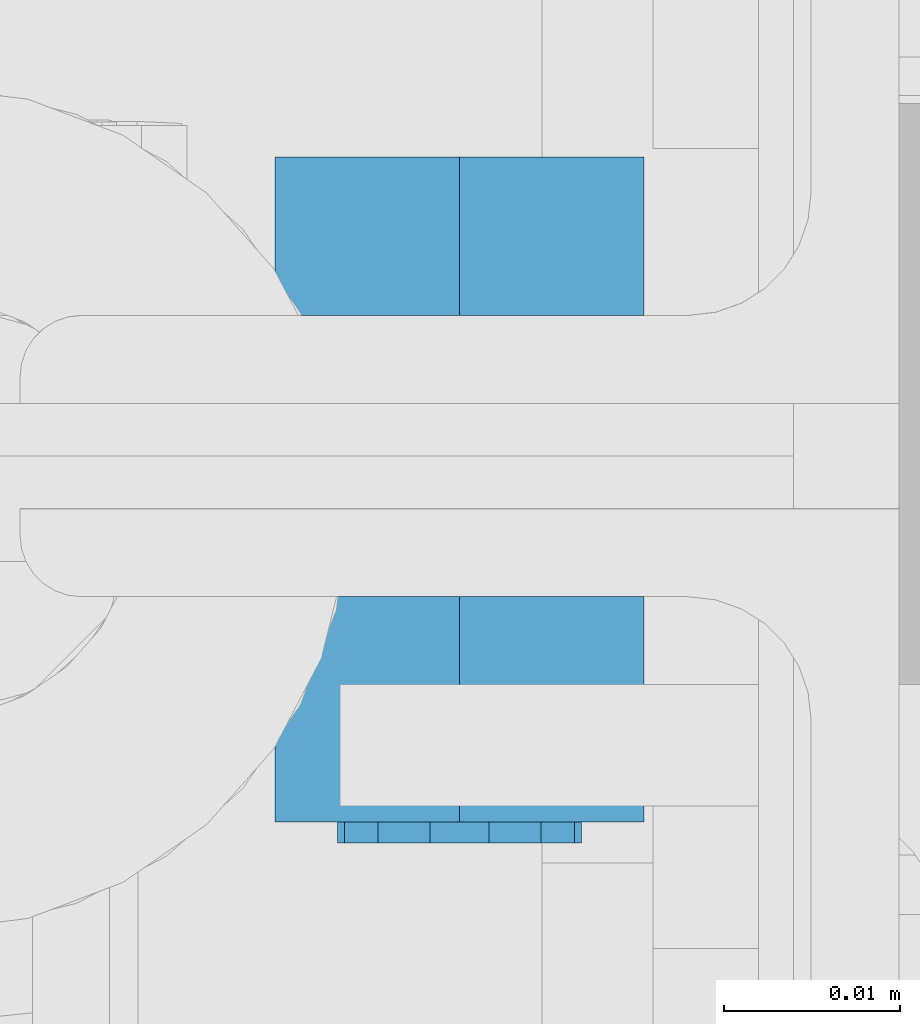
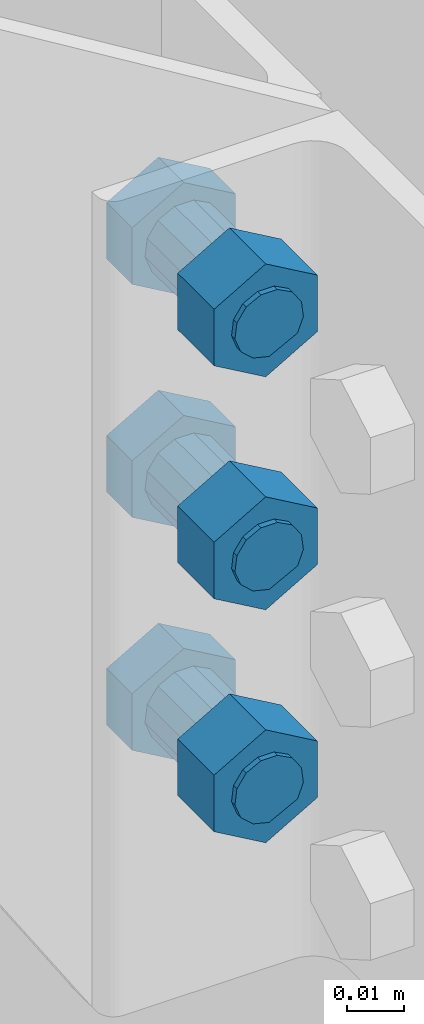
# One storey, part 11 of 18: 1 mechanical fastener.
"""IFC2X3 building model written with IfcOpenShell, lengths in millimetres."""

from ifc_helpers import new_model, si_unit, frame, origin_with_axes, place, context, subcontext, project, spatial, faceted_brep, source, transform, mapped, type_object, element, save


model = new_model("IFC2X3")

# Units and contexts
model_context = context("Model", 3, precision=1e-05, world=origin_with_axes())
body_context = subcontext(model_context, "Body", "Model", "MODEL_VIEW")
ifc_project = project(units=[si_unit("LENGTHUNIT", "METRE", prefix="MILLI"), si_unit("AREAUNIT", "SQUARE_METRE"), si_unit("VOLUMEUNIT", "CUBIC_METRE"), si_unit("MASSUNIT", "GRAM", prefix="KILO"), si_unit("TIMEUNIT", "SECOND"), si_unit("PLANEANGLEUNIT", "RADIAN"), si_unit("SOLIDANGLEUNIT", "STERADIAN"), si_unit("THERMODYNAMICTEMPERATUREUNIT", "DEGREE_CELSIUS"), si_unit("LUMINOUSINTENSITYUNIT", "LUMEN")], contexts=[model_context])

# Site, building, storey
site_placement = place(None, origin_with_axes())
site = spatial("IfcSite", under=ifc_project, at=site_placement, Name="Undefined", CompositionType="ELEMENT")
building_placement = place(site_placement, origin_with_axes())
building = spatial("IfcBuilding", under=site, at=building_placement, Name="Undefined", CompositionType="ELEMENT")
storey_placement = place(building_placement, origin_with_axes())
storey = spatial("IfcBuildingStorey", under=building, at=storey_placement, Name="Undefined", CompositionType="ELEMENT", Elevation=0.0)

# Mechanical fastener
mechanical_fastener_type = type_object("IfcMechanicalFastenerType", Name="Bolt assembly")
shared_shape_1 = source(origin_with_axes(), body_context, "Body", "Brep", [
    faceted_brep([(12.12435565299, 10.9974534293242, 0.0), (6.062177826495, 10.9974534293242, 10.5000000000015), (-6.062177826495, 10.9974534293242, 10.5000000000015), (-12.12435565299, 10.9974534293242, 0.0), (-6.062177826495, 10.9974534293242, -10.5000000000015), (6.062177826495, 10.9974534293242, -10.5000000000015), (6.062177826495, 19.9974534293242, -10.5000000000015), (-6.062177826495, 19.9974534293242, -10.5000000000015), (-12.12435565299, 19.9974534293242, 0.0), (-6.062177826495, 19.9974534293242, 10.5000000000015), (6.062177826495, 19.9974534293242, 10.5000000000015), (12.12435565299, 19.9974534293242, 0.0), (7.0, 19.9974534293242, 0.0), (6.19819217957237, 19.9974534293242, 3.25306220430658), (3.97645322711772, 19.9974534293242, 5.76088706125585), (0.843756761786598, 19.9974534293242, 6.94896211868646), (-2.48223420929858, 19.9974534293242, 6.54511369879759), (-5.23957523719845, 19.9974534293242, 4.64185860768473), (-6.79659272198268, 19.9974534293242, 1.67520965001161), (-6.79659272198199, 19.9974534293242, -1.67520965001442), (-5.23957523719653, 19.9974534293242, -4.6418586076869), (-2.48223420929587, 19.9974534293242, -6.54511369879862), (0.843756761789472, 19.9974534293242, -6.94896211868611), (3.97645322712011, 19.9974534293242, -5.7608870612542), (3.97645322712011, 49.9974534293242, -5.7608870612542), (0.843756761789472, 49.9974534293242, -6.94896211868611), (-2.48223420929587, 49.9974534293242, -6.54511369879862), (-5.23957523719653, 49.9974534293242, -4.6418586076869), (-6.79659272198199, 49.9974534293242, -1.67520965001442), (-6.79659272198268, 49.9974534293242, 1.67520965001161), (-5.23957523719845, 49.9974534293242, 4.64185860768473), (-2.48223420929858, 49.9974534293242, 6.54511369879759), (0.843756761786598, 49.9974534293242, 6.94896211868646), (3.97645322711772, 49.9974534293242, 5.76088706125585), (6.19819217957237, 49.9974534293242, 3.25306220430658), (7.0, 49.9974534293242, 0.0), (12.12435565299, 35.9974550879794, 0.0), (6.062177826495, 35.9974550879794, 10.5000000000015), (-6.062177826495, 35.9974550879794, 10.5000000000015), (-12.12435565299, 35.9974550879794, 0.0), (-6.062177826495, 35.9974550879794, -10.5000000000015), (6.062177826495, 35.9974550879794, -10.5000000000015), (6.062177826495, 48.7974552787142, -10.5000000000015), (-6.062177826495, 48.7974552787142, -10.5000000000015), (-12.12435565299, 48.7974552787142, 0.0), (-6.062177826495, 48.7974552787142, 10.5000000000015), (6.062177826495, 48.7974552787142, 10.5000000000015), (12.12435565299, 48.7974552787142, 0.0)], [[[0, 1, 2, 3, 4, 5]], [[6, 7, 8, 9, 10, 11]], [[0, 11, 10, 1]], [[1, 10, 9, 2]], [[2, 9, 8, 3]], [[3, 8, 7, 4]], [[4, 7, 6, 5]], [[5, 6, 11, 0]], [[12, 13, 14, 15, 16, 17, 18, 19, 20, 21, 22, 23]], [[24, 25, 26, 27, 28, 29, 30, 31, 32, 33, 34, 35]], [[12, 35, 34, 13]], [[13, 34, 33, 14]], [[14, 33, 32, 15]], [[15, 32, 31, 16]], [[16, 31, 30, 17]], [[17, 30, 29, 18]], [[18, 29, 28, 19]], [[19, 28, 27, 20]], [[20, 27, 26, 21]], [[21, 26, 25, 22]], [[22, 25, 24, 23]], [[23, 24, 35, 12]], [[36, 37, 38, 39, 40, 41]], [[42, 43, 44, 45, 46, 47]], [[36, 47, 46, 37]], [[37, 46, 45, 38]], [[38, 45, 44, 39]], [[39, 44, 43, 40]], [[40, 43, 42, 41]], [[41, 42, 47, 36]]]),
    faceted_brep([(8.0, 24.9974854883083, 0.0), (7.08364820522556, 24.9974854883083, 3.71778537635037), (4.54451797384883, 24.9974854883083, 6.58387092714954), (0.964293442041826, 24.9974854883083, 7.94167099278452), (-2.83683909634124, 24.9974854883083, 7.48012994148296), (-5.98808598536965, 24.9974854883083, 5.30498126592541), (-7.76753453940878, 24.9974854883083, 1.91452531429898), (-7.76753453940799, 24.9974854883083, -1.91452531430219), (-5.98808598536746, 24.9974854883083, -5.30498126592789), (-2.83683909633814, 24.9974854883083, -7.48012994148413), (0.964293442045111, 24.9974854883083, -7.94167099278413), (4.54451797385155, 24.9974854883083, -6.58387092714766), (4.54451797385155, 30.9974854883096, -6.58387092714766), (0.964293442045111, 30.9974854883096, -7.94167099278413), (-2.83683909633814, 30.9974854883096, -7.48012994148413), (-5.98808598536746, 30.9974854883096, -5.30498126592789), (-7.76753453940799, 30.9974854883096, -1.91452531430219), (-7.76753453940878, 30.9974854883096, 1.91452531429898), (-5.98808598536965, 30.9974854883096, 5.30498126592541), (-2.83683909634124, 30.9974854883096, 7.48012994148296), (0.964293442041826, 30.9974854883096, 7.94167099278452), (4.54451797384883, 30.9974854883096, 6.58387092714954), (7.08364820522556, 30.9974854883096, 3.71778537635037), (8.0, 30.9974854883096, 0.0), (8.0, 30.8974550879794, 0.0), (7.08364820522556, 30.8974550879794, 3.71778537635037), (4.54451797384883, 30.8974550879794, 6.58387092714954), (0.964293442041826, 30.8974550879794, 7.94167099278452), (-2.83683909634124, 30.8974550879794, 7.48012994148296), (-5.98808598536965, 30.8974550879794, 5.30498126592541), (-7.76753453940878, 30.8974550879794, 1.91452531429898), (-7.76753453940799, 30.8974550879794, -1.91452531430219), (-5.98808598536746, 30.8974550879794, -5.30498126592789), (-2.83683909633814, 30.8974550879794, -7.48012994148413), (0.964293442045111, 30.8974550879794, -7.94167099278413), (4.54451797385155, 30.8974550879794, -6.58387092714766), (4.54451797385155, 35.9974550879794, -6.58387092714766), (0.964293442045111, 35.9974550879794, -7.94167099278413), (-2.83683909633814, 35.9974550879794, -7.48012994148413), (-5.98808598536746, 35.9974550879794, -5.30498126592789), (-7.76753453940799, 35.9974550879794, -1.91452531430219), (-7.76753453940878, 35.9974550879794, 1.91452531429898), (-5.98808598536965, 35.9974550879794, 5.30498126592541), (-2.83683909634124, 35.9974550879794, 7.48012994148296), (0.964293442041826, 35.9974550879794, 7.94167099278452), (4.54451797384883, 35.9974550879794, 6.58387092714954), (7.08364820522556, 35.9974550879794, 3.71778537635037), (8.0, 35.9974550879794, 0.0), (8.0, 20.0974534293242, 0.0), (7.08364820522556, 20.0974534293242, 3.71778537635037), (4.54451797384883, 20.0974534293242, 6.58387092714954), (0.964293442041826, 20.0974534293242, 7.94167099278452), (-2.83683909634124, 20.0974534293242, 7.48012994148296), (-5.98808598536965, 20.0974534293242, 5.30498126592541), (-7.76753453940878, 20.0974534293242, 1.91452531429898), (-7.76753453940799, 20.0974534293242, -1.91452531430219), (-5.98808598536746, 20.0974534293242, -5.30498126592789), (-2.83683909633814, 20.0974534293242, -7.48012994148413), (0.964293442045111, 20.0974534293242, -7.94167099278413), (4.54451797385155, 20.0974534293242, -6.58387092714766), (4.54451797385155, 25.0974534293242, -6.58387092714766), (0.964293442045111, 25.0974534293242, -7.94167099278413), (-2.83683909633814, 25.0974534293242, -7.48012994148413), (-5.98808598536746, 25.0974534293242, -5.30498126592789), (-7.76753453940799, 25.0974534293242, -1.91452531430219), (-7.76753453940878, 25.0974534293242, 1.91452531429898), (-5.98808598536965, 25.0974534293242, 5.30498126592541), (-2.83683909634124, 25.0974534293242, 7.48012994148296), (0.964293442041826, 25.0974534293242, 7.94167099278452), (4.54451797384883, 25.0974534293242, 6.58387092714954), (7.08364820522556, 25.0974534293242, 3.71778537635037), (8.0, 25.0974534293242, 0.0)], [[[0, 1, 2, 3, 4, 5, 6, 7, 8, 9, 10, 11]], [[12, 13, 14, 15, 16, 17, 18, 19, 20, 21, 22, 23]], [[0, 23, 22, 1]], [[1, 22, 21, 2]], [[2, 21, 20, 3]], [[3, 20, 19, 4]], [[4, 19, 18, 5]], [[5, 18, 17, 6]], [[6, 17, 16, 7]], [[7, 16, 15, 8]], [[8, 15, 14, 9]], [[9, 14, 13, 10]], [[10, 13, 12, 11]], [[11, 12, 23, 0]], [[24, 25, 26, 27, 28, 29, 30, 31, 32, 33, 34, 35]], [[36, 37, 38, 39, 40, 41, 42, 43, 44, 45, 46, 47]], [[24, 47, 46, 25]], [[25, 46, 45, 26]], [[26, 45, 44, 27]], [[27, 44, 43, 28]], [[28, 43, 42, 29]], [[29, 42, 41, 30]], [[30, 41, 40, 31]], [[31, 40, 39, 32]], [[32, 39, 38, 33]], [[33, 38, 37, 34]], [[34, 37, 36, 35]], [[35, 36, 47, 24]], [[48, 49, 50, 51, 52, 53, 54, 55, 56, 57, 58, 59]], [[60, 61, 62, 63, 64, 65, 66, 67, 68, 69, 70, 71]], [[48, 71, 70, 49]], [[49, 70, 69, 50]], [[50, 69, 68, 51]], [[51, 68, 67, 52]], [[52, 67, 66, 53]], [[53, 66, 65, 54]], [[54, 65, 64, 55]], [[55, 64, 63, 56]], [[56, 63, 62, 57]], [[57, 62, 61, 58]], [[58, 61, 60, 59]], [[59, 60, 71, 48]]]),
])
shared_shape_2 = source(origin_with_axes(), body_context, "Body", "Brep", [
    faceted_brep([(12.12435565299, 10.9974534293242, 0.0), (6.062177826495, 10.9974534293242, 10.5000000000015), (-6.062177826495, 10.9974534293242, 10.5000000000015), (-12.12435565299, 10.9974534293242, 0.0), (-6.062177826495, 10.9974534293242, -10.5000000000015), (6.062177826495, 10.9974534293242, -10.5000000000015), (6.062177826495, 19.9974534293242, -10.5000000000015), (-6.062177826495, 19.9974534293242, -10.5000000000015), (-12.12435565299, 19.9974534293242, 0.0), (-6.062177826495, 19.9974534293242, 10.5000000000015), (6.062177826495, 19.9974534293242, 10.5000000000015), (12.12435565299, 19.9974534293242, 0.0), (7.0, 19.9974534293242, 0.0), (6.19819217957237, 19.9974534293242, 3.25306220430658), (3.97645322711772, 19.9974534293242, 5.76088706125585), (0.843756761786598, 19.9974534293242, 6.94896211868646), (-2.48223420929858, 19.9974534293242, 6.54511369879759), (-5.23957523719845, 19.9974534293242, 4.64185860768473), (-6.79659272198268, 19.9974534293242, 1.67520965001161), (-6.79659272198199, 19.9974534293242, -1.67520965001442), (-5.23957523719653, 19.9974534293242, -4.6418586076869), (-2.48223420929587, 19.9974534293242, -6.54511369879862), (0.843756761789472, 19.9974534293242, -6.94896211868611), (3.97645322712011, 19.9974534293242, -5.7608870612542), (3.97645322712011, 49.9974534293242, -5.7608870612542), (0.843756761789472, 49.9974534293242, -6.94896211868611), (-2.48223420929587, 49.9974534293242, -6.54511369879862), (-5.23957523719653, 49.9974534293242, -4.6418586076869), (-6.79659272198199, 49.9974534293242, -1.67520965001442), (-6.79659272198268, 49.9974534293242, 1.67520965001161), (-5.23957523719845, 49.9974534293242, 4.64185860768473), (-2.48223420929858, 49.9974534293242, 6.54511369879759), (0.843756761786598, 49.9974534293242, 6.94896211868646), (3.97645322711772, 49.9974534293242, 5.76088706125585), (6.19819217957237, 49.9974534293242, 3.25306220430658), (7.0, 49.9974534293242, 0.0), (12.12435565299, 35.9974550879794, 0.0), (6.062177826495, 35.9974550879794, 10.5000000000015), (-6.062177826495, 35.9974550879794, 10.5000000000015), (-12.12435565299, 35.9974550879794, 0.0), (-6.062177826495, 35.9974550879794, -10.5000000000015), (6.062177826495, 35.9974550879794, -10.5000000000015), (6.062177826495, 48.7974552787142, -10.5000000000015), (-6.062177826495, 48.7974552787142, -10.5000000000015), (-12.12435565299, 48.7974552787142, 0.0), (-6.062177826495, 48.7974552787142, 10.5000000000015), (6.062177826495, 48.7974552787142, 10.5000000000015), (12.12435565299, 48.7974552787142, 0.0)], [[[0, 1, 2, 3, 4, 5]], [[6, 7, 8, 9, 10, 11]], [[0, 11, 10, 1]], [[1, 10, 9, 2]], [[2, 9, 8, 3]], [[3, 8, 7, 4]], [[4, 7, 6, 5]], [[5, 6, 11, 0]], [[12, 13, 14, 15, 16, 17, 18, 19, 20, 21, 22, 23]], [[24, 25, 26, 27, 28, 29, 30, 31, 32, 33, 34, 35]], [[12, 35, 34, 13]], [[13, 34, 33, 14]], [[14, 33, 32, 15]], [[15, 32, 31, 16]], [[16, 31, 30, 17]], [[17, 30, 29, 18]], [[18, 29, 28, 19]], [[19, 28, 27, 20]], [[20, 27, 26, 21]], [[21, 26, 25, 22]], [[22, 25, 24, 23]], [[23, 24, 35, 12]], [[36, 37, 38, 39, 40, 41]], [[42, 43, 44, 45, 46, 47]], [[36, 47, 46, 37]], [[37, 46, 45, 38]], [[38, 45, 44, 39]], [[39, 44, 43, 40]], [[40, 43, 42, 41]], [[41, 42, 47, 36]]]),
    faceted_brep([(8.0, 24.9974854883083, 0.0), (7.08364820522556, 24.9974854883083, 3.71778537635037), (4.54451797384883, 24.9974854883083, 6.58387092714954), (0.964293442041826, 24.9974854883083, 7.94167099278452), (-2.83683909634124, 24.9974854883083, 7.48012994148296), (-5.98808598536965, 24.9974854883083, 5.30498126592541), (-7.76753453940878, 24.9974854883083, 1.91452531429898), (-7.76753453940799, 24.9974854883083, -1.91452531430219), (-5.98808598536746, 24.9974854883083, -5.30498126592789), (-2.83683909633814, 24.9974854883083, -7.48012994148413), (0.964293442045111, 24.9974854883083, -7.94167099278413), (4.54451797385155, 24.9974854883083, -6.58387092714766), (4.54451797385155, 30.9974854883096, -6.58387092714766), (0.964293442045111, 30.9974854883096, -7.94167099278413), (-2.83683909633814, 30.9974854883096, -7.48012994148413), (-5.98808598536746, 30.9974854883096, -5.30498126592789), (-7.76753453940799, 30.9974854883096, -1.91452531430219), (-7.76753453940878, 30.9974854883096, 1.91452531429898), (-5.98808598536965, 30.9974854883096, 5.30498126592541), (-2.83683909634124, 30.9974854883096, 7.48012994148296), (0.964293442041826, 30.9974854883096, 7.94167099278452), (4.54451797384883, 30.9974854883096, 6.58387092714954), (7.08364820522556, 30.9974854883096, 3.71778537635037), (8.0, 30.9974854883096, 0.0), (8.0, 30.8974550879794, 0.0), (7.08364820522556, 30.8974550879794, 3.71778537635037), (4.54451797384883, 30.8974550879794, 6.58387092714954), (0.964293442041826, 30.8974550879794, 7.94167099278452), (-2.83683909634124, 30.8974550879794, 7.48012994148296), (-5.98808598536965, 30.8974550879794, 5.30498126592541), (-7.76753453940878, 30.8974550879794, 1.91452531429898), (-7.76753453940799, 30.8974550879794, -1.91452531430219), (-5.98808598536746, 30.8974550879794, -5.30498126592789), (-2.83683909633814, 30.8974550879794, -7.48012994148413), (0.964293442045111, 30.8974550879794, -7.94167099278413), (4.54451797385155, 30.8974550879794, -6.58387092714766), (4.54451797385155, 35.9974550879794, -6.58387092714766), (0.964293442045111, 35.9974550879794, -7.94167099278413), (-2.83683909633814, 35.9974550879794, -7.48012994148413), (-5.98808598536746, 35.9974550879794, -5.30498126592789), (-7.76753453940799, 35.9974550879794, -1.91452531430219), (-7.76753453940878, 35.9974550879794, 1.91452531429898), (-5.98808598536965, 35.9974550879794, 5.30498126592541), (-2.83683909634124, 35.9974550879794, 7.48012994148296), (0.964293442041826, 35.9974550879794, 7.94167099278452), (4.54451797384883, 35.9974550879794, 6.58387092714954), (7.08364820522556, 35.9974550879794, 3.71778537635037), (8.0, 35.9974550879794, 0.0), (8.0, 20.0974534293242, 0.0), (7.08364820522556, 20.0974534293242, 3.71778537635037), (4.54451797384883, 20.0974534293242, 6.58387092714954), (0.964293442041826, 20.0974534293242, 7.94167099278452), (-2.83683909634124, 20.0974534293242, 7.48012994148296), (-5.98808598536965, 20.0974534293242, 5.30498126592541), (-7.76753453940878, 20.0974534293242, 1.91452531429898), (-7.76753453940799, 20.0974534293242, -1.91452531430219), (-5.98808598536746, 20.0974534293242, -5.30498126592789), (-2.83683909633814, 20.0974534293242, -7.48012994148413), (0.964293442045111, 20.0974534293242, -7.94167099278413), (4.54451797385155, 20.0974534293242, -6.58387092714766), (4.54451797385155, 25.0974534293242, -6.58387092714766), (0.964293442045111, 25.0974534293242, -7.94167099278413), (-2.83683909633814, 25.0974534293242, -7.48012994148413), (-5.98808598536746, 25.0974534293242, -5.30498126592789), (-7.76753453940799, 25.0974534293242, -1.91452531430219), (-7.76753453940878, 25.0974534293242, 1.91452531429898), (-5.98808598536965, 25.0974534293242, 5.30498126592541), (-2.83683909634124, 25.0974534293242, 7.48012994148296), (0.964293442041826, 25.0974534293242, 7.94167099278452), (4.54451797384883, 25.0974534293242, 6.58387092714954), (7.08364820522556, 25.0974534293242, 3.71778537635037), (8.0, 25.0974534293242, 0.0)], [[[0, 1, 2, 3, 4, 5, 6, 7, 8, 9, 10, 11]], [[12, 13, 14, 15, 16, 17, 18, 19, 20, 21, 22, 23]], [[0, 23, 22, 1]], [[1, 22, 21, 2]], [[2, 21, 20, 3]], [[3, 20, 19, 4]], [[4, 19, 18, 5]], [[5, 18, 17, 6]], [[6, 17, 16, 7]], [[7, 16, 15, 8]], [[8, 15, 14, 9]], [[9, 14, 13, 10]], [[10, 13, 12, 11]], [[11, 12, 23, 0]], [[24, 25, 26, 27, 28, 29, 30, 31, 32, 33, 34, 35]], [[36, 37, 38, 39, 40, 41, 42, 43, 44, 45, 46, 47]], [[24, 47, 46, 25]], [[25, 46, 45, 26]], [[26, 45, 44, 27]], [[27, 44, 43, 28]], [[28, 43, 42, 29]], [[29, 42, 41, 30]], [[30, 41, 40, 31]], [[31, 40, 39, 32]], [[32, 39, 38, 33]], [[33, 38, 37, 34]], [[34, 37, 36, 35]], [[35, 36, 47, 24]], [[48, 49, 50, 51, 52, 53, 54, 55, 56, 57, 58, 59]], [[60, 61, 62, 63, 64, 65, 66, 67, 68, 69, 70, 71]], [[48, 71, 70, 49]], [[49, 70, 69, 50]], [[50, 69, 68, 51]], [[51, 68, 67, 52]], [[52, 67, 66, 53]], [[53, 66, 65, 54]], [[54, 65, 64, 55]], [[55, 64, 63, 56]], [[56, 63, 62, 57]], [[57, 62, 61, 58]], [[58, 61, 60, 59]], [[59, 60, 71, 48]]]),
])
shared_shape_3 = source(origin_with_axes(), body_context, "Body", "Brep", [
    faceted_brep([(12.12435565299, 10.9974534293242, 0.0), (6.062177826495, 10.9974534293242, 10.5000000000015), (-6.062177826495, 10.9974534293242, 10.5000000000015), (-12.12435565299, 10.9974534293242, 0.0), (-6.062177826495, 10.9974534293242, -10.5000000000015), (6.062177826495, 10.9974534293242, -10.5000000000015), (6.062177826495, 19.9974534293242, -10.5000000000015), (-6.062177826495, 19.9974534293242, -10.5000000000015), (-12.12435565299, 19.9974534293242, 0.0), (-6.062177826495, 19.9974534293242, 10.5000000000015), (6.062177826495, 19.9974534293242, 10.5000000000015), (12.12435565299, 19.9974534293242, 0.0), (7.0, 19.9974534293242, 0.0), (6.19819217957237, 19.9974534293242, 3.25306220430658), (3.97645322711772, 19.9974534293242, 5.76088706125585), (0.843756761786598, 19.9974534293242, 6.94896211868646), (-2.48223420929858, 19.9974534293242, 6.54511369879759), (-5.23957523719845, 19.9974534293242, 4.64185860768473), (-6.79659272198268, 19.9974534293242, 1.67520965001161), (-6.79659272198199, 19.9974534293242, -1.67520965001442), (-5.23957523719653, 19.9974534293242, -4.6418586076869), (-2.48223420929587, 19.9974534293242, -6.54511369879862), (0.843756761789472, 19.9974534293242, -6.94896211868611), (3.97645322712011, 19.9974534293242, -5.7608870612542), (3.97645322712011, 49.9974534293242, -5.7608870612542), (0.843756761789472, 49.9974534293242, -6.94896211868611), (-2.48223420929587, 49.9974534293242, -6.54511369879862), (-5.23957523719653, 49.9974534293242, -4.6418586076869), (-6.79659272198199, 49.9974534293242, -1.67520965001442), (-6.79659272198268, 49.9974534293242, 1.67520965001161), (-5.23957523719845, 49.9974534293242, 4.64185860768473), (-2.48223420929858, 49.9974534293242, 6.54511369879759), (0.843756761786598, 49.9974534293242, 6.94896211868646), (3.97645322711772, 49.9974534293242, 5.76088706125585), (6.19819217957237, 49.9974534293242, 3.25306220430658), (7.0, 49.9974534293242, 0.0), (12.12435565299, 35.9974550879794, 0.0), (6.062177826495, 35.9974550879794, 10.5000000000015), (-6.062177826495, 35.9974550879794, 10.5000000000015), (-12.12435565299, 35.9974550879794, 0.0), (-6.062177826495, 35.9974550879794, -10.5000000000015), (6.062177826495, 35.9974550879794, -10.5000000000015), (6.062177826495, 48.7974552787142, -10.5000000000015), (-6.062177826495, 48.7974552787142, -10.5000000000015), (-12.12435565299, 48.7974552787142, 0.0), (-6.062177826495, 48.7974552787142, 10.5000000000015), (6.062177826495, 48.7974552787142, 10.5000000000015), (12.12435565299, 48.7974552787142, 0.0)], [[[0, 1, 2, 3, 4, 5]], [[6, 7, 8, 9, 10, 11]], [[0, 11, 10, 1]], [[1, 10, 9, 2]], [[2, 9, 8, 3]], [[3, 8, 7, 4]], [[4, 7, 6, 5]], [[5, 6, 11, 0]], [[12, 13, 14, 15, 16, 17, 18, 19, 20, 21, 22, 23]], [[24, 25, 26, 27, 28, 29, 30, 31, 32, 33, 34, 35]], [[12, 35, 34, 13]], [[13, 34, 33, 14]], [[14, 33, 32, 15]], [[15, 32, 31, 16]], [[16, 31, 30, 17]], [[17, 30, 29, 18]], [[18, 29, 28, 19]], [[19, 28, 27, 20]], [[20, 27, 26, 21]], [[21, 26, 25, 22]], [[22, 25, 24, 23]], [[23, 24, 35, 12]], [[36, 37, 38, 39, 40, 41]], [[42, 43, 44, 45, 46, 47]], [[36, 47, 46, 37]], [[37, 46, 45, 38]], [[38, 45, 44, 39]], [[39, 44, 43, 40]], [[40, 43, 42, 41]], [[41, 42, 47, 36]]]),
    faceted_brep([(8.0, 24.9974854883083, 0.0), (7.08364820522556, 24.9974854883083, 3.71778537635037), (4.54451797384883, 24.9974854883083, 6.58387092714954), (0.964293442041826, 24.9974854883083, 7.94167099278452), (-2.83683909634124, 24.9974854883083, 7.48012994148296), (-5.98808598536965, 24.9974854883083, 5.30498126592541), (-7.76753453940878, 24.9974854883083, 1.91452531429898), (-7.76753453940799, 24.9974854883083, -1.91452531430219), (-5.98808598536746, 24.9974854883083, -5.30498126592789), (-2.83683909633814, 24.9974854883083, -7.48012994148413), (0.964293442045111, 24.9974854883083, -7.94167099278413), (4.54451797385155, 24.9974854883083, -6.58387092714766), (4.54451797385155, 30.9974854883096, -6.58387092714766), (0.964293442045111, 30.9974854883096, -7.94167099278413), (-2.83683909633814, 30.9974854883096, -7.48012994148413), (-5.98808598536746, 30.9974854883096, -5.30498126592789), (-7.76753453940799, 30.9974854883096, -1.91452531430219), (-7.76753453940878, 30.9974854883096, 1.91452531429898), (-5.98808598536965, 30.9974854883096, 5.30498126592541), (-2.83683909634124, 30.9974854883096, 7.48012994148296), (0.964293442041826, 30.9974854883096, 7.94167099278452), (4.54451797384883, 30.9974854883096, 6.58387092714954), (7.08364820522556, 30.9974854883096, 3.71778537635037), (8.0, 30.9974854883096, 0.0), (8.0, 30.8974550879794, 0.0), (7.08364820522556, 30.8974550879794, 3.71778537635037), (4.54451797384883, 30.8974550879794, 6.58387092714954), (0.964293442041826, 30.8974550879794, 7.94167099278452), (-2.83683909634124, 30.8974550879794, 7.48012994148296), (-5.98808598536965, 30.8974550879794, 5.30498126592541), (-7.76753453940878, 30.8974550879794, 1.91452531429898), (-7.76753453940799, 30.8974550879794, -1.91452531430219), (-5.98808598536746, 30.8974550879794, -5.30498126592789), (-2.83683909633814, 30.8974550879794, -7.48012994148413), (0.964293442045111, 30.8974550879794, -7.94167099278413), (4.54451797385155, 30.8974550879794, -6.58387092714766), (4.54451797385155, 35.9974550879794, -6.58387092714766), (0.964293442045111, 35.9974550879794, -7.94167099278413), (-2.83683909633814, 35.9974550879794, -7.48012994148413), (-5.98808598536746, 35.9974550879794, -5.30498126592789), (-7.76753453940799, 35.9974550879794, -1.91452531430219), (-7.76753453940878, 35.9974550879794, 1.91452531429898), (-5.98808598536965, 35.9974550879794, 5.30498126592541), (-2.83683909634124, 35.9974550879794, 7.48012994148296), (0.964293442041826, 35.9974550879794, 7.94167099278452), (4.54451797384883, 35.9974550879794, 6.58387092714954), (7.08364820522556, 35.9974550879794, 3.71778537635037), (8.0, 35.9974550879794, 0.0), (8.0, 20.0974534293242, 0.0), (7.08364820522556, 20.0974534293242, 3.71778537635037), (4.54451797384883, 20.0974534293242, 6.58387092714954), (0.964293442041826, 20.0974534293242, 7.94167099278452), (-2.83683909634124, 20.0974534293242, 7.48012994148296), (-5.98808598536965, 20.0974534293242, 5.30498126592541), (-7.76753453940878, 20.0974534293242, 1.91452531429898), (-7.76753453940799, 20.0974534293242, -1.91452531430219), (-5.98808598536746, 20.0974534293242, -5.30498126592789), (-2.83683909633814, 20.0974534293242, -7.48012994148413), (0.964293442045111, 20.0974534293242, -7.94167099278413), (4.54451797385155, 20.0974534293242, -6.58387092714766), (4.54451797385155, 25.0974534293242, -6.58387092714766), (0.964293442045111, 25.0974534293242, -7.94167099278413), (-2.83683909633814, 25.0974534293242, -7.48012994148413), (-5.98808598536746, 25.0974534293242, -5.30498126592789), (-7.76753453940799, 25.0974534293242, -1.91452531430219), (-7.76753453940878, 25.0974534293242, 1.91452531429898), (-5.98808598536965, 25.0974534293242, 5.30498126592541), (-2.83683909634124, 25.0974534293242, 7.48012994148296), (0.964293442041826, 25.0974534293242, 7.94167099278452), (4.54451797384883, 25.0974534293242, 6.58387092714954), (7.08364820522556, 25.0974534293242, 3.71778537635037), (8.0, 25.0974534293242, 0.0)], [[[0, 1, 2, 3, 4, 5, 6, 7, 8, 9, 10, 11]], [[12, 13, 14, 15, 16, 17, 18, 19, 20, 21, 22, 23]], [[0, 23, 22, 1]], [[1, 22, 21, 2]], [[2, 21, 20, 3]], [[3, 20, 19, 4]], [[4, 19, 18, 5]], [[5, 18, 17, 6]], [[6, 17, 16, 7]], [[7, 16, 15, 8]], [[8, 15, 14, 9]], [[9, 14, 13, 10]], [[10, 13, 12, 11]], [[11, 12, 23, 0]], [[24, 25, 26, 27, 28, 29, 30, 31, 32, 33, 34, 35]], [[36, 37, 38, 39, 40, 41, 42, 43, 44, 45, 46, 47]], [[24, 47, 46, 25]], [[25, 46, 45, 26]], [[26, 45, 44, 27]], [[27, 44, 43, 28]], [[28, 43, 42, 29]], [[29, 42, 41, 30]], [[30, 41, 40, 31]], [[31, 40, 39, 32]], [[32, 39, 38, 33]], [[33, 38, 37, 34]], [[34, 37, 36, 35]], [[35, 36, 47, 24]], [[48, 49, 50, 51, 52, 53, 54, 55, 56, 57, 58, 59]], [[60, 61, 62, 63, 64, 65, 66, 67, 68, 69, 70, 71]], [[48, 71, 70, 49]], [[49, 70, 69, 50]], [[50, 69, 68, 51]], [[51, 68, 67, 52]], [[52, 67, 66, 53]], [[53, 66, 65, 54]], [[54, 65, 64, 55]], [[55, 64, 63, 56]], [[56, 63, 62, 57]], [[57, 62, 61, 58]], [[58, 61, 60, 59]], [[59, 60, 71, 48]]]),
])
mechanical_fastener_placement = place(storey_placement, frame((-29.7000005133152, -44.0025191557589, 94.9704157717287), z_axis=(-1.0, 0.0, 0.0), x_axis=(2.35338842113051e-13, 3.18999996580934e-05, -0.999999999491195)))
element("IfcMechanicalFastener", 1, at=mechanical_fastener_placement, inside=storey, type_object=mechanical_fastener_type, Name="Bolt assembly", NominalDiameter=14.0, NominalLength=35.0, context=body_context, shape_type="MappedRepresentation", body=[
    mapped(shared_shape_1, transform((0.0, 0.0, 0.0))),
    mapped(shared_shape_2, transform((50.0, 0.0, 0.0))),
    mapped(shared_shape_3, transform((100.0, 0.0, -5.04870979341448e-27))),
])

save(model, "model.ifc")
